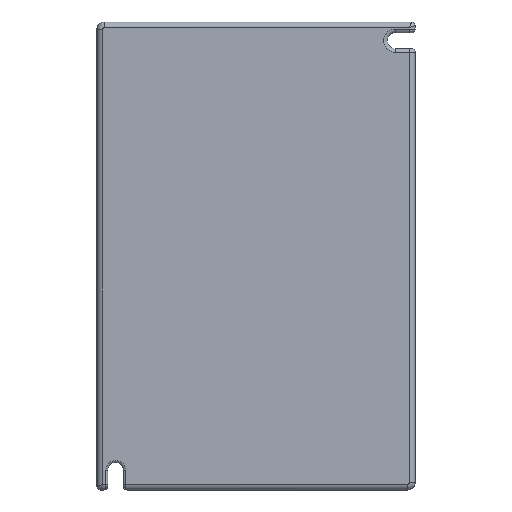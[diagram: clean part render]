
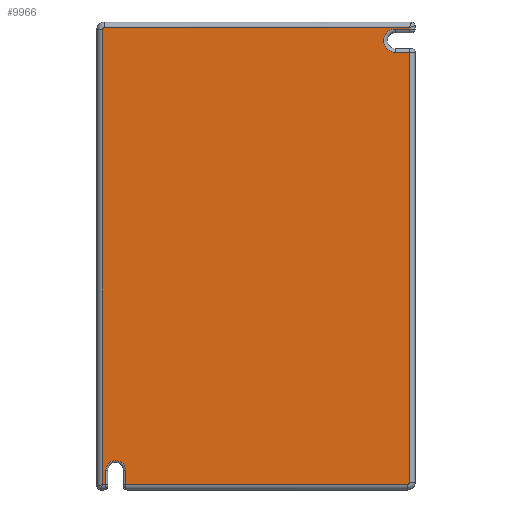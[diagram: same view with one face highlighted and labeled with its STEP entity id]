
A CAD part, front view. The second image highlights one B-rep face of the part: STEP entity #9966.
In plain terms, the highlighted planar face has unit normal (0, -1, 0).
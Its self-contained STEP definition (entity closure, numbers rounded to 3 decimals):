
#84=CARTESIAN_POINT('',(40.5,0.,-60.5));
#85=DIRECTION('',(0.,-1.,0.));
#86=DIRECTION('',(0.,0.,-1.));
#87=AXIS2_PLACEMENT_3D('',#84,#85,#86);
#93=DIRECTION('',(1.,0.,0.));
#94=VECTOR('',#93,75.4);
#95=CARTESIAN_POINT('',(-34.9,0.,-61.));
#96=LINE('',#95,#94);
#100=DIRECTION('',(0.,0.,1.));
#101=VECTOR('',#100,3.8);
#102=CARTESIAN_POINT('',(-34.9,0.,-61.));
#103=LINE('',#102,#101);
#107=CARTESIAN_POINT('',(-37.5,0.,-57.2));
#108=DIRECTION('',(0.,-1.,0.));
#109=DIRECTION('',(1.,0.,0.));
#110=AXIS2_PLACEMENT_3D('',#107,#108,#109);
#115=DIRECTION('',(0.,0.,-1.));
#116=VECTOR('',#115,3.8);
#117=CARTESIAN_POINT('',(-40.1,0.,-57.2));
#118=LINE('',#117,#116);
#122=DIRECTION('',(1.,0.,0.));
#123=VECTOR('',#122,0.9);
#124=CARTESIAN_POINT('',(-41.,0.,-61.));
#125=LINE('',#124,#123);
#129=DIRECTION('',(0.,0.,-1.));
#130=VECTOR('',#129,121.5);
#131=CARTESIAN_POINT('',(-41.,0.,60.5));
#132=LINE('',#131,#130);
#136=CARTESIAN_POINT('',(-40.5,0.,60.5));
#137=DIRECTION('',(0.,-1.,0.));
#138=DIRECTION('',(0.,0.,1.));
#139=AXIS2_PLACEMENT_3D('',#136,#137,#138);
#144=DIRECTION('',(-1.,0.,0.));
#145=VECTOR('',#144,81.5);
#146=CARTESIAN_POINT('',(41.,0.,61.));
#147=LINE('',#146,#145);
#151=DIRECTION('',(0.,0.,1.));
#152=VECTOR('',#151,0.4);
#153=CARTESIAN_POINT('',(41.,0.,60.6));
#154=LINE('',#153,#152);
#158=DIRECTION('',(-1.,0.,0.));
#159=VECTOR('',#158,3.8);
#160=CARTESIAN_POINT('',(41.,0.,60.6));
#161=LINE('',#160,#159);
#165=CARTESIAN_POINT('',(37.2,0.,57.5));
#166=DIRECTION('',(0.,-1.,0.));
#167=DIRECTION('',(0.,0.,1.));
#168=AXIS2_PLACEMENT_3D('',#165,#166,#167);
#173=DIRECTION('',(1.,0.,0.));
#174=VECTOR('',#173,3.8);
#175=CARTESIAN_POINT('',(37.2,0.,54.4));
#176=LINE('',#175,#174);
#180=DIRECTION('',(0.,0.,1.));
#181=VECTOR('',#180,114.9);
#182=CARTESIAN_POINT('',(41.,0.,-60.5));
#183=LINE('',#182,#181);
#315=CARTESIAN_POINT('',(-41.,0.,-61.));
#2927=CARTESIAN_POINT('',(41.,0.,61.));
#8900=VERTEX_POINT('',#2927);
#8901=VERTEX_POINT('',#315);
#8910=CARTESIAN_POINT('',(-40.1,0.,-57.2));
#8911=CARTESIAN_POINT('',(-40.1,0.,-61.));
#8912=VERTEX_POINT('',#8910);
#8913=VERTEX_POINT('',#8911);
#8916=CARTESIAN_POINT('',(-34.9,0.,-57.2));
#8917=VERTEX_POINT('',#8916);
#8920=CARTESIAN_POINT('',(-34.9,0.,-61.));
#8921=VERTEX_POINT('',#8920);
#8934=CARTESIAN_POINT('',(41.,0.,54.4));
#8935=VERTEX_POINT('',#8934);
#8940=CARTESIAN_POINT('',(37.2,0.,54.4));
#8941=VERTEX_POINT('',#8940);
#8944=CARTESIAN_POINT('',(37.2,0.,60.6));
#8945=VERTEX_POINT('',#8944);
#8948=CARTESIAN_POINT('',(41.,0.,60.6));
#8949=VERTEX_POINT('',#8948);
#9052=CARTESIAN_POINT('',(-40.5,0.,61.));
#9054=VERTEX_POINT('',#9052);
#9055=CARTESIAN_POINT('',(-41.,0.,60.5));
#9056=VERTEX_POINT('',#9055);
#9127=CARTESIAN_POINT('',(40.5,0.,-61.));
#9128=VERTEX_POINT('',#9127);
#9129=CARTESIAN_POINT('',(41.,0.,-60.5));
#9130=VERTEX_POINT('',#9129);
#9931=CARTESIAN_POINT('',(0.,0.,0.));
#9932=DIRECTION('',(0.,1.,0.));
#9933=DIRECTION('',(1.,0.,0.));
#9934=AXIS2_PLACEMENT_3D('',#9931,#9932,#9933);
#9935=PLANE('',#9934);
#9937=ORIENTED_EDGE('',*,*,#9936,.F.);
#9939=ORIENTED_EDGE('',*,*,#9938,.F.);
#9941=ORIENTED_EDGE('',*,*,#9940,.T.);
#9943=ORIENTED_EDGE('',*,*,#9942,.T.);
#9945=ORIENTED_EDGE('',*,*,#9944,.T.);
#9947=ORIENTED_EDGE('',*,*,#9946,.F.);
#9949=ORIENTED_EDGE('',*,*,#9948,.F.);
#9951=ORIENTED_EDGE('',*,*,#9950,.F.);
#9953=ORIENTED_EDGE('',*,*,#9952,.F.);
#9955=ORIENTED_EDGE('',*,*,#9954,.F.);
#9957=ORIENTED_EDGE('',*,*,#9956,.T.);
#9959=ORIENTED_EDGE('',*,*,#9958,.T.);
#9961=ORIENTED_EDGE('',*,*,#9960,.T.);
#9963=ORIENTED_EDGE('',*,*,#9962,.F.);
#9964=EDGE_LOOP('',(#9937,#9939,#9941,#9943,#9945,#9947,#9949,#9951,#9953,#9955,
#9957,#9959,#9961,#9963));
#9965=FACE_OUTER_BOUND('',#9964,.F.);
#88=CIRCLE('',#87,0.5);
#111=CIRCLE('',#110,2.6);
#140=CIRCLE('',#139,0.5);
#169=CIRCLE('',#168,3.1);
#9936=EDGE_CURVE('',#9128,#9130,#88,.T.);
#9938=EDGE_CURVE('',#8921,#9128,#96,.T.);
#9940=EDGE_CURVE('',#8921,#8917,#103,.T.);
#9942=EDGE_CURVE('',#8917,#8912,#111,.T.);
#9944=EDGE_CURVE('',#8912,#8913,#118,.T.);
#9946=EDGE_CURVE('',#8901,#8913,#125,.T.);
#9948=EDGE_CURVE('',#9056,#8901,#132,.T.);
#9950=EDGE_CURVE('',#9054,#9056,#140,.T.);
#9952=EDGE_CURVE('',#8900,#9054,#147,.T.);
#9954=EDGE_CURVE('',#8949,#8900,#154,.T.);
#9956=EDGE_CURVE('',#8949,#8945,#161,.T.);
#9958=EDGE_CURVE('',#8945,#8941,#169,.T.);
#9960=EDGE_CURVE('',#8941,#8935,#176,.T.);
#9962=EDGE_CURVE('',#9130,#8935,#183,.T.);
#9966=ADVANCED_FACE('',(#9965),#9935,.F.);
